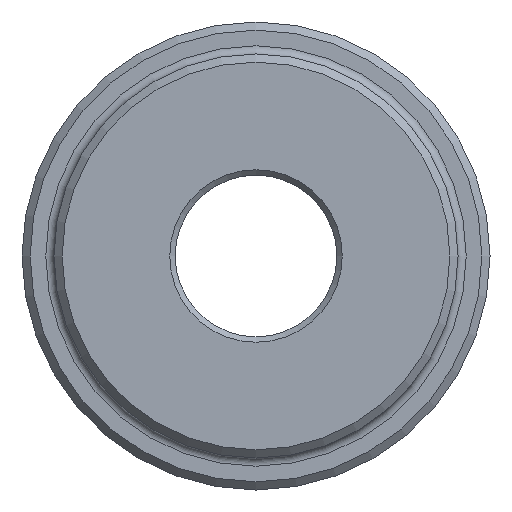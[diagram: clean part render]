
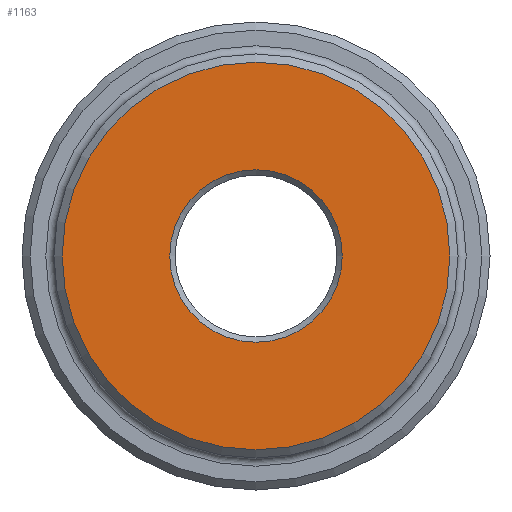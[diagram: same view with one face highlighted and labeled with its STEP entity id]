
A CAD part, left-side view. The second image highlights one B-rep face of the part: STEP entity #1163.
In plain terms, the highlighted planar face has unit normal (-1, 0, 0).
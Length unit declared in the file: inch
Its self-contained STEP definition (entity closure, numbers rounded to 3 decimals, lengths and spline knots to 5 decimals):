
#94 = ORIENTED_EDGE ( 'NONE', *, *, #392, .T. ) ;
#175 = DIRECTION ( 'NONE',  ( 1., 0., 0. ) ) ;
#277 = ORIENTED_EDGE ( 'NONE', *, *, #581, .T. ) ;
#283 = CIRCLE ( 'NONE', #1385, 1.425 ) ;
#392 = EDGE_CURVE ( 'NONE', #1006, #1006, #657, .T. ) ;
#495 = EDGE_LOOP ( 'NONE', ( #94 ) ) ;
#581 = EDGE_CURVE ( 'NONE', #1372, #1372, #283, .T. ) ;
#657 = CIRCLE ( 'NONE', #1785, 0.634 ) ;
#770 = CARTESIAN_POINT ( 'NONE',  ( 0., 0., 0. ) ) ;
#1005 = DIRECTION ( 'NONE',  ( -1., 0., 0. ) ) ;
#1006 = VERTEX_POINT ( 'NONE', #1201 ) ;
#1130 = DIRECTION ( 'NONE',  ( 0., 0., -1. ) ) ;
#1163 = ADVANCED_FACE ( 'NONE', ( #1532, #1452 ), #1235, .F. ) ;
#1201 = CARTESIAN_POINT ( 'NONE',  ( 0., 0., -0.634 ) ) ;
#1235 = PLANE ( 'NONE',  #1798 ) ;
#1254 = CARTESIAN_POINT ( 'NONE',  ( 0., 0., -1.425 ) ) ;
#1372 = VERTEX_POINT ( 'NONE', #1254 ) ;
#1385 = AXIS2_PLACEMENT_3D ( 'NONE', #1508, #1005, #1735 ) ;
#1452 = FACE_OUTER_BOUND ( 'NONE', #1756, .T. ) ;
#1508 = CARTESIAN_POINT ( 'NONE',  ( 0., 0., 0. ) ) ;
#1532 = FACE_BOUND ( 'NONE', #495, .T. ) ;
#1565 = DIRECTION ( 'NONE',  ( 1., 0., 0. ) ) ;
#1735 = DIRECTION ( 'NONE',  ( 0., 0., -1. ) ) ;
#1756 = EDGE_LOOP ( 'NONE', ( #277 ) ) ;
#1785 = AXIS2_PLACEMENT_3D ( 'NONE', #1834, #175, #1130 ) ;
#1798 = AXIS2_PLACEMENT_3D ( 'NONE', #770, #1565, #1799 ) ;
#1799 = DIRECTION ( 'NONE',  ( 0., 0., -1. ) ) ;
#1834 = CARTESIAN_POINT ( 'NONE',  ( 0., 0., 0. ) ) ;
